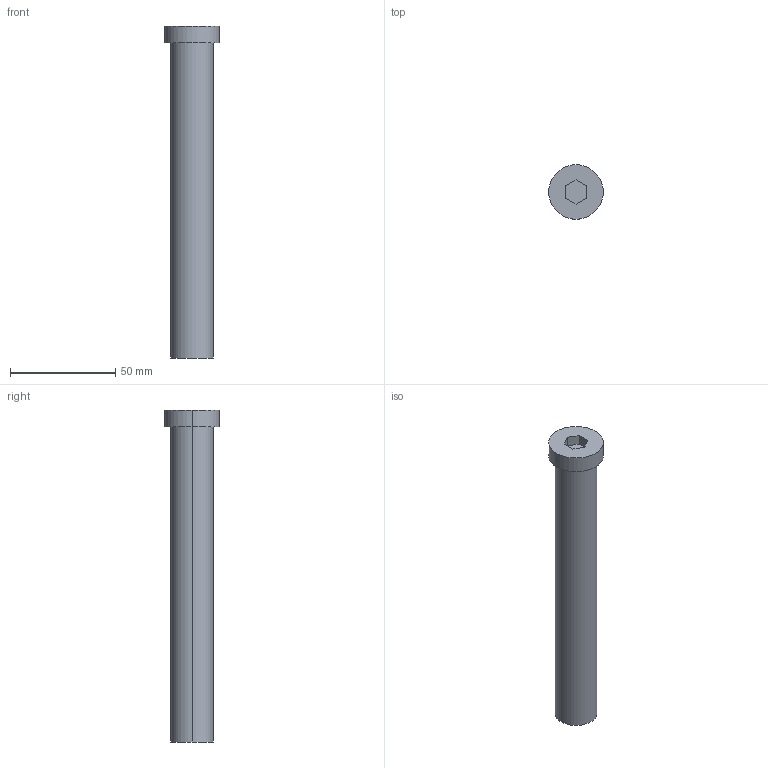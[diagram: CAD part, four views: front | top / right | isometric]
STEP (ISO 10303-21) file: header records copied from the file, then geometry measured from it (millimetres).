
FILE_DESCRIPTION (( 'STEP AP214' ), '1' );
FILE_NAME ('BruyRubio_TGH__20_x_150_-_M-12.STEP', '2019-12-22T23:38:03', ( '' ), ( '' ), 'SwSTEP 2.0', 'SolidWorks 2017', '' );
FILE_SCHEMA (( 'AUTOMOTIVE_DESIGN' ));
Length unit declared in the file: millimetre
Products named in the file (1): BruyRubio_TGH__20_x_150_-_M-12
Bounding box: 26 x 26 x 158 mm (x, y, z)
Volume: 48635.8 mm3; surface area: 14162.7 mm2
Topology: 2 solids, 2 shells, 27 faces, 58 edges, 37 vertices
Faces by surface type: plane 13, cylinder 12, cone 2
Entity records: 1070 total; most frequent: DIRECTION 136, CARTESIAN_POINT 121, ORIENTED_EDGE 112, EDGE_CURVE 56, AXIS2_PLACEMENT_3D 52, VERTEX_POINT 37, EDGE_LOOP 33, VECTOR 32
